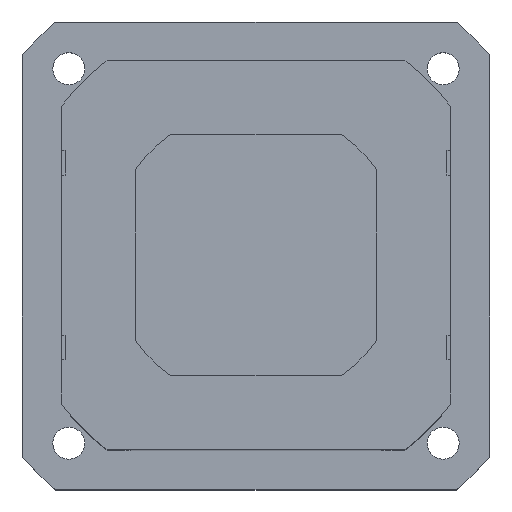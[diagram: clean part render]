
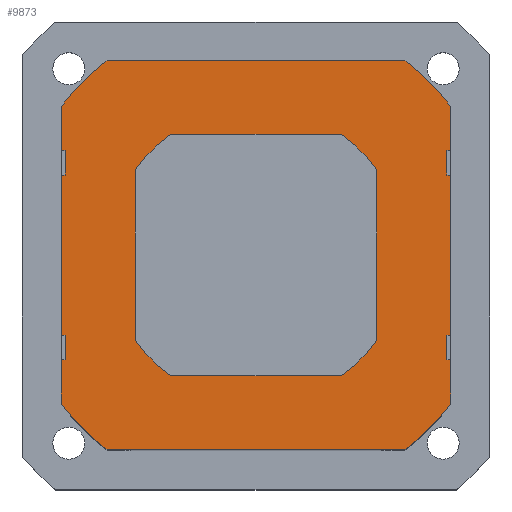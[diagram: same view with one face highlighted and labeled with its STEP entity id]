
A CAD part, top view. The second image highlights one B-rep face of the part: STEP entity #9873.
In plain terms, the highlighted planar face has unit normal (0, 0, 1).
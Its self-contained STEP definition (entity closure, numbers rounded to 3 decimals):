
#2748=CIRCLE('',#10826,99.5);
#2749=CIRCLE('',#10827,99.5);
#2750=CIRCLE('',#10828,99.5);
#2751=CIRCLE('',#10829,99.5);
#3254=VERTEX_POINT('',#14131);
#3255=VERTEX_POINT('',#14132);
#3256=VERTEX_POINT('',#14134);
#3257=VERTEX_POINT('',#14136);
#3258=VERTEX_POINT('',#14138);
#3259=VERTEX_POINT('',#14140);
#3260=VERTEX_POINT('',#14142);
#3261=VERTEX_POINT('',#14144);
#3262=VERTEX_POINT('',#14146);
#3263=VERTEX_POINT('',#14148);
#3264=VERTEX_POINT('',#14150);
#3265=VERTEX_POINT('',#14152);
#3266=VERTEX_POINT('',#14154);
#3267=VERTEX_POINT('',#14156);
#3268=VERTEX_POINT('',#14158);
#3269=VERTEX_POINT('',#14160);
#3270=VERTEX_POINT('',#14162);
#3271=VERTEX_POINT('',#14164);
#3272=VERTEX_POINT('',#14166);
#3273=VERTEX_POINT('',#14168);
#3274=VERTEX_POINT('',#14170);
#3275=VERTEX_POINT('',#14172);
#3276=VERTEX_POINT('',#14174);
#3277=VERTEX_POINT('',#14176);
#4168=LINE('',#14130,#11856);
#4169=LINE('',#14135,#11857);
#4170=LINE('',#14137,#11858);
#4171=LINE('',#14139,#11859);
#4172=LINE('',#14141,#11860);
#4173=LINE('',#14143,#11861);
#4174=LINE('',#14145,#11862);
#4175=LINE('',#14147,#11863);
#4176=LINE('',#14149,#11864);
#4177=LINE('',#14151,#11865);
#4178=LINE('',#14155,#11866);
#4179=LINE('',#14159,#11867);
#4180=LINE('',#14161,#11868);
#4181=LINE('',#14163,#11869);
#4182=LINE('',#14165,#11870);
#4183=LINE('',#14167,#11871);
#4184=LINE('',#14169,#11872);
#4185=LINE('',#14171,#11873);
#4186=LINE('',#14173,#11874);
#4187=LINE('',#14175,#11875);
#5017=EDGE_CURVE('',#3254,#3255,#4168,.T.);
#5018=EDGE_CURVE('',#3256,#3254,#2748,.T.);
#5019=EDGE_CURVE('',#3257,#3256,#4169,.T.);
#5020=EDGE_CURVE('',#3258,#3257,#4170,.T.);
#5021=EDGE_CURVE('',#3259,#3258,#4171,.T.);
#5022=EDGE_CURVE('',#3260,#3259,#4172,.T.);
#5023=EDGE_CURVE('',#3261,#3260,#4173,.T.);
#5024=EDGE_CURVE('',#3262,#3261,#4174,.T.);
#5025=EDGE_CURVE('',#3263,#3262,#4175,.T.);
#5026=EDGE_CURVE('',#3264,#3263,#4176,.T.);
#5027=EDGE_CURVE('',#3265,#3264,#4177,.T.);
#5028=EDGE_CURVE('',#3266,#3265,#2749,.T.);
#5029=EDGE_CURVE('',#3267,#3266,#4178,.T.);
#5030=EDGE_CURVE('',#3268,#3267,#2750,.T.);
#5031=EDGE_CURVE('',#3269,#3268,#4179,.T.);
#5032=EDGE_CURVE('',#3270,#3269,#4180,.T.);
#5033=EDGE_CURVE('',#3271,#3270,#4181,.T.);
#5034=EDGE_CURVE('',#3272,#3271,#4182,.T.);
#5035=EDGE_CURVE('',#3273,#3272,#4183,.T.);
#5036=EDGE_CURVE('',#3274,#3273,#4184,.T.);
#5037=EDGE_CURVE('',#3275,#3274,#4185,.T.);
#5038=EDGE_CURVE('',#3276,#3275,#4186,.T.);
#5039=EDGE_CURVE('',#3277,#3276,#4187,.T.);
#5040=EDGE_CURVE('',#3255,#3277,#2751,.T.);
#6469=ORIENTED_EDGE('',*,*,#5017,.F.);
#6470=ORIENTED_EDGE('',*,*,#5018,.F.);
#6471=ORIENTED_EDGE('',*,*,#5019,.F.);
#6472=ORIENTED_EDGE('',*,*,#5020,.F.);
#6473=ORIENTED_EDGE('',*,*,#5021,.F.);
#6474=ORIENTED_EDGE('',*,*,#5022,.F.);
#6475=ORIENTED_EDGE('',*,*,#5023,.F.);
#6476=ORIENTED_EDGE('',*,*,#5024,.F.);
#6477=ORIENTED_EDGE('',*,*,#5025,.F.);
#6478=ORIENTED_EDGE('',*,*,#5026,.F.);
#6479=ORIENTED_EDGE('',*,*,#5027,.F.);
#6480=ORIENTED_EDGE('',*,*,#5028,.F.);
#6481=ORIENTED_EDGE('',*,*,#5029,.F.);
#6482=ORIENTED_EDGE('',*,*,#5030,.F.);
#6483=ORIENTED_EDGE('',*,*,#5031,.F.);
#6484=ORIENTED_EDGE('',*,*,#5032,.F.);
#6485=ORIENTED_EDGE('',*,*,#5033,.F.);
#6486=ORIENTED_EDGE('',*,*,#5034,.F.);
#6487=ORIENTED_EDGE('',*,*,#5035,.F.);
#6488=ORIENTED_EDGE('',*,*,#5036,.F.);
#6489=ORIENTED_EDGE('',*,*,#5037,.F.);
#6490=ORIENTED_EDGE('',*,*,#5038,.F.);
#6491=ORIENTED_EDGE('',*,*,#5039,.F.);
#6492=ORIENTED_EDGE('',*,*,#5040,.F.);
#8552=EDGE_LOOP('',(#6469,#6470,#6471,#6472,#6473,#6474,#6475,#6476,#6477,
#6478,#6479,#6480,#6481,#6482,#6483,#6484,#6485,#6486,#6487,#6488,#6489,
#6490,#6491,#6492));
#9228=FACE_BOUND('',#8552,.T.);
#9873=ADVANCED_FACE('',(#9228),#12552,.T.);
#10825=AXIS2_PLACEMENT_3D('',#14129,#18176,$);
#10826=AXIS2_PLACEMENT_3D('',#14133,#18178,#18179);
#10827=AXIS2_PLACEMENT_3D('',#14153,#18189,#18190);
#10828=AXIS2_PLACEMENT_3D('',#14157,#18192,#18193);
#10829=AXIS2_PLACEMENT_3D('',#14177,#18203,#18204);
#11856=VECTOR('',#18177,1.);
#11857=VECTOR('',#18180,1.);
#11858=VECTOR('',#18181,1.);
#11859=VECTOR('',#18182,1.);
#11860=VECTOR('',#18183,1.);
#11861=VECTOR('',#18184,1.);
#11862=VECTOR('',#18185,1.);
#11863=VECTOR('',#18186,1.);
#11864=VECTOR('',#18187,1.);
#11865=VECTOR('',#18188,1.);
#11866=VECTOR('',#18191,1.);
#11867=VECTOR('',#18194,1.);
#11868=VECTOR('',#18195,1.);
#11869=VECTOR('',#18196,1.);
#11870=VECTOR('',#18197,1.);
#11871=VECTOR('',#18198,1.);
#11872=VECTOR('',#18199,1.);
#11873=VECTOR('',#18200,1.);
#11874=VECTOR('',#18201,1.);
#11875=VECTOR('',#18202,1.);
#12552=PLANE('',#10825);
#14129=CARTESIAN_POINT('',(0.,0.,61.));
#14130=CARTESIAN_POINT('',(-60.492,-79.,61.));
#14131=CARTESIAN_POINT('',(60.492,-79.,61.));
#14132=CARTESIAN_POINT('',(-60.492,-79.,61.));
#14133=CARTESIAN_POINT('',(0.,0.,61.));
#14134=CARTESIAN_POINT('',(79.,-60.492,61.));
#14135=CARTESIAN_POINT('',(79.,-60.492,61.));
#14136=CARTESIAN_POINT('',(79.,-42.5,61.));
#14137=CARTESIAN_POINT('',(79.,-42.5,61.));
#14138=CARTESIAN_POINT('',(77.5,-42.5,61.));
#14139=CARTESIAN_POINT('',(77.5,-42.5,61.));
#14140=CARTESIAN_POINT('',(77.5,-32.5,61.));
#14141=CARTESIAN_POINT('',(77.5,-32.5,61.));
#14142=CARTESIAN_POINT('',(79.,-32.5,61.));
#14143=CARTESIAN_POINT('',(79.,-32.5,61.));
#14144=CARTESIAN_POINT('',(79.,32.5,61.));
#14145=CARTESIAN_POINT('',(79.,32.5,61.));
#14146=CARTESIAN_POINT('',(77.5,32.5,61.));
#14147=CARTESIAN_POINT('',(77.5,32.5,61.));
#14148=CARTESIAN_POINT('',(77.5,42.5,61.));
#14149=CARTESIAN_POINT('',(77.5,42.5,61.));
#14150=CARTESIAN_POINT('',(79.,42.5,61.));
#14151=CARTESIAN_POINT('',(79.,42.5,61.));
#14152=CARTESIAN_POINT('',(79.,60.492,61.));
#14153=CARTESIAN_POINT('',(0.,0.,61.));
#14154=CARTESIAN_POINT('',(60.492,79.,61.));
#14155=CARTESIAN_POINT('',(60.492,79.,61.));
#14156=CARTESIAN_POINT('',(-60.492,79.,61.));
#14157=CARTESIAN_POINT('',(0.,0.,61.));
#14158=CARTESIAN_POINT('',(-79.,60.492,61.));
#14159=CARTESIAN_POINT('',(-79.,60.492,61.));
#14160=CARTESIAN_POINT('',(-79.,42.5,61.));
#14161=CARTESIAN_POINT('',(-79.,42.5,61.));
#14162=CARTESIAN_POINT('',(-77.5,42.5,61.));
#14163=CARTESIAN_POINT('',(-77.5,42.5,61.));
#14164=CARTESIAN_POINT('',(-77.5,32.5,61.));
#14165=CARTESIAN_POINT('',(-77.5,32.5,61.));
#14166=CARTESIAN_POINT('',(-79.,32.5,61.));
#14167=CARTESIAN_POINT('',(-79.,32.5,61.));
#14168=CARTESIAN_POINT('',(-79.,-32.5,61.));
#14169=CARTESIAN_POINT('',(-79.,-32.5,61.));
#14170=CARTESIAN_POINT('',(-77.5,-32.5,61.));
#14171=CARTESIAN_POINT('',(-77.5,-32.5,61.));
#14172=CARTESIAN_POINT('',(-77.5,-42.5,61.));
#14173=CARTESIAN_POINT('',(-77.5,-42.5,61.));
#14174=CARTESIAN_POINT('',(-79.,-42.5,61.));
#14175=CARTESIAN_POINT('',(-79.,-42.5,61.));
#14176=CARTESIAN_POINT('',(-79.,-60.492,61.));
#14177=CARTESIAN_POINT('',(0.,0.,61.));
#18176=DIRECTION('',(0.,0.,1.));
#18177=DIRECTION('',(-1.,0.,0.));
#18178=DIRECTION('',(0.,0.,-1.));
#18179=DIRECTION('',(99.5,0.,0.));
#18180=DIRECTION('',(0.,-1.,0.));
#18181=DIRECTION('',(1.,0.,0.));
#18182=DIRECTION('',(0.,-1.,0.));
#18183=DIRECTION('',(-1.,0.,0.));
#18184=DIRECTION('',(0.,-1.,0.));
#18185=DIRECTION('',(1.,0.,0.));
#18186=DIRECTION('',(0.,-1.,0.));
#18187=DIRECTION('',(-1.,0.,0.));
#18188=DIRECTION('',(0.,-1.,0.));
#18189=DIRECTION('',(0.,0.,-1.));
#18190=DIRECTION('',(99.5,0.,0.));
#18191=DIRECTION('',(1.,0.,0.));
#18192=DIRECTION('',(0.,0.,-1.));
#18193=DIRECTION('',(99.5,0.,0.));
#18194=DIRECTION('',(0.,1.,0.));
#18195=DIRECTION('',(-1.,0.,0.));
#18196=DIRECTION('',(0.,1.,0.));
#18197=DIRECTION('',(1.,0.,0.));
#18198=DIRECTION('',(0.,1.,0.));
#18199=DIRECTION('',(-1.,0.,0.));
#18200=DIRECTION('',(0.,1.,0.));
#18201=DIRECTION('',(1.,0.,0.));
#18202=DIRECTION('',(0.,1.,0.));
#18203=DIRECTION('',(0.,0.,-1.));
#18204=DIRECTION('',(99.5,0.,0.));
